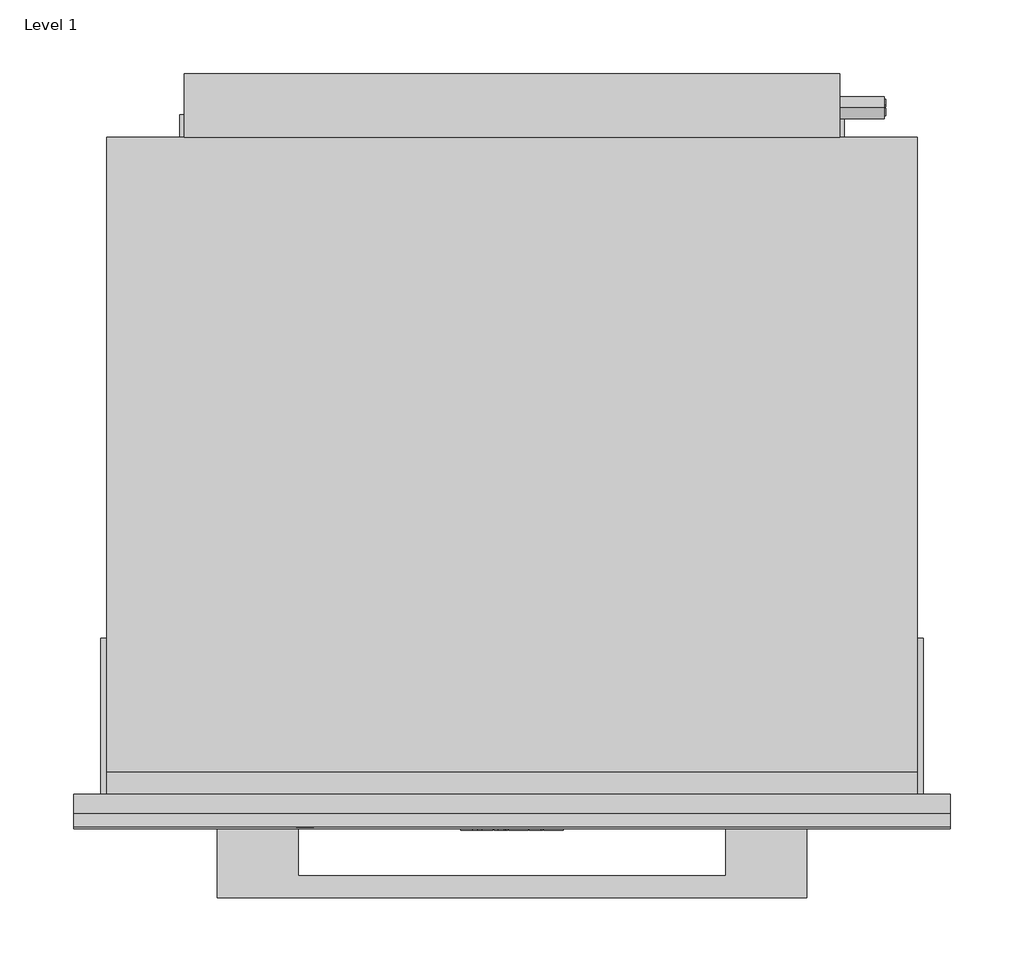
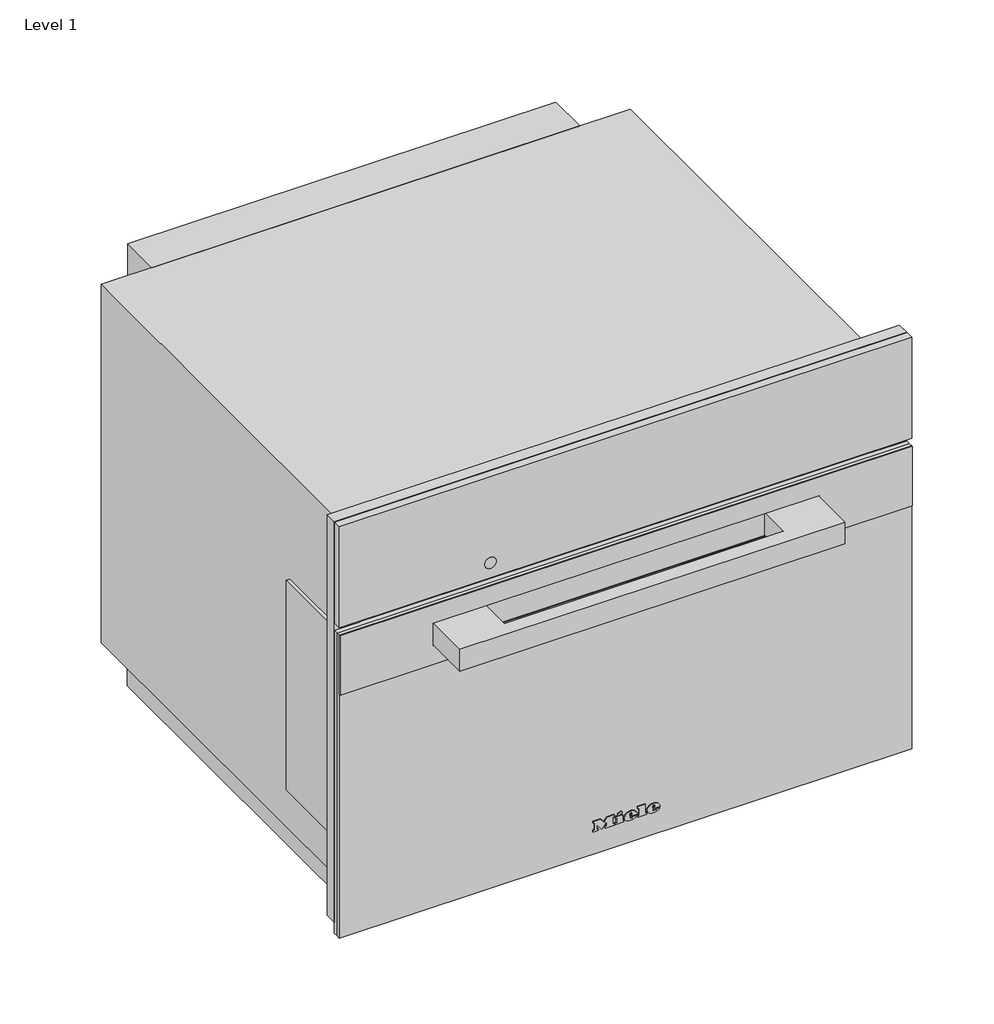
# One storey: 1 proxy.
"""IFC4 building model written with IfcOpenShell, lengths in millimetres."""

from ifc_helpers import new_model, si_unit, origin, place, context, project, spatial, transform, mapped, element, save
from components import specialty_equipment_d85db7c3

model = new_model("IFC4")

# Units and contexts
model_context = context("Model", 3, world=origin())
ifc_project = project(units=[si_unit("LENGTHUNIT", "METRE", prefix="MILLI")], contexts=[model_context])

# Site, building, storey
site = spatial("IfcSite", under=ifc_project)
building = spatial("IfcBuilding", under=site)
storey = spatial("IfcBuildingStorey", under=building, Name="Level 1", Elevation=0.0)

# Proxy
placement = place(None, origin())
specialty_equipment_shape = specialty_equipment_d85db7c3(model_context)
element("IfcBuildingElementProxy", 1, Name="11103670_D_M7244TC_EDST-CLST : 24724440_D_11103670_M7244TC_EDST-CLST", ObjectType="11103670_D_M7244TC_EDST-CLST : 24724440_D_11103670_M7244TC_EDST-CLST", at=placement, inside=storey, context=model_context, shape_type="MappedRepresentation", body=[
    mapped(specialty_equipment_shape, transform((0.0, 0.0, 0.0), x_axis=(1.0, 0.0, 0.0), y_axis=(0.0, 1.0, 0.0), z_axis=(0.0, 0.0, 1.0))),
])

save(model, "model.ifc")
